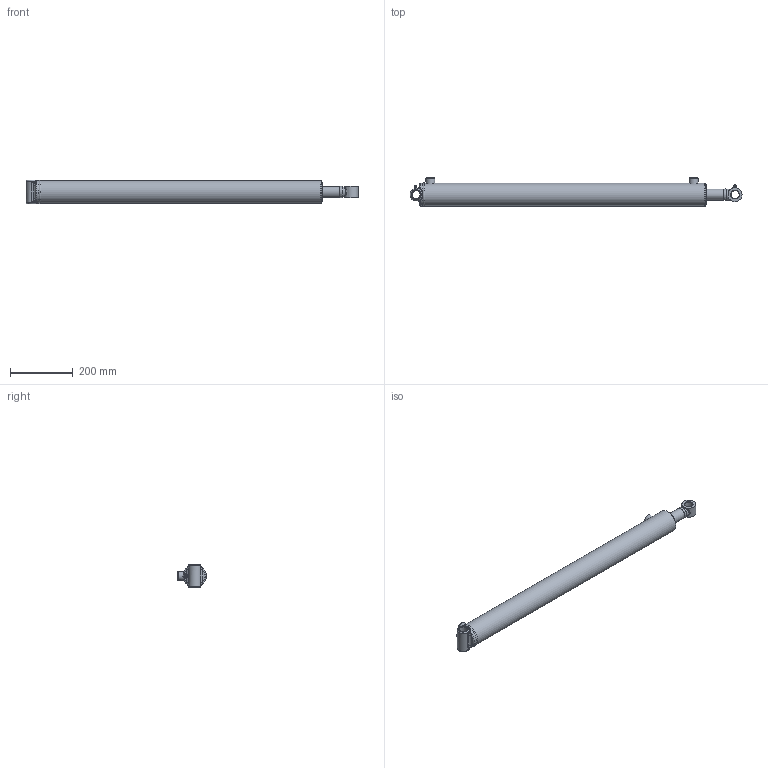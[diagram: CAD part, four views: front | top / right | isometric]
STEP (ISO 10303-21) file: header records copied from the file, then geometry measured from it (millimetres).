
FILE_DESCRIPTION(/* description */ ('Ø2.50 X 32.00 DA'),/* implementation_level */ '2;1');
FILE_NAME(/* name */ 'result.stp',/* time_stamp */ '2024-07-12T20:45:16Z',/* author */ ('AJC'),/* organization */ ('PRINCE MANUFACTURING'),/* preprocessor_version */ 'ST-DEVELOPER v20',/* originating_system */ 'Autodesk Inventor 2024',/* authorisation */ '');
FILE_SCHEMA (('AUTOMOTIVE_DESIGN { 1 0 10303 214 3 1 1 }'));
Length unit declared in the file: inch
Products named in the file (21): PC2532013A00-400XYXA; 0613-XYSF000-35237; 0513-T-35237; 161300230; 200015602; 06Weld1_C360; 0713-P-075; 220000208; 0813-G-138; 230025103; 230025003; 240000018; 240061330; 240000330; 0207A-FAW0-38250XA; 0107A-FAW0-38250; 210400812; 02Weld_C360; 240037106; 250014137; 270010020
Assembly tree (22 placements, depth 3):
  PC2532013A00-400XYXA
    0613-XYSF000-35237
      0513-T-35237
      161300230
      200015602  x2
      06Weld1_C360
    0713-P-075
    220000208
    0813-G-138
    230025103
    230025003
    240000018
    240061330
    240000330
    0207A-FAW0-38250XA
      0107A-FAW0-38250
      210400812
      02Weld_C360
    240037106
    250014137
    270010020  x2
Bounding box: 1057.71 x 91.34 x 76.2 mm (x, y, z)
Volume: 2130803.5 mm3; surface area: 609098.2 mm2
Topology: 25 solids, 25 shells, 554 faces, 1338 edges, 857 vertices
Faces by surface type: bspline 155, plane 140, torus 86, cone 86, cylinder 83, sphere 4
Full cylindrical faces by diameter (mm): 2.143 x4, 3.175 x1, 5.359 x2, 6.35 x2, 9.525 x2, 12.649 x1, 12.7 x1, 12.725 x1, 17.323 x3, 18.999 x1, 19.126 x1, 21.615 x1, 25.781 x2, 28.575 x2, 34.925 x1, 35.001 x2, 35.56 x2, 36.957 x1, 40.64 x1, 41.3 x1, 44.45 x1, 46.101 x2, 47.625 x2, 50.8 x2, 54.077 x2, 54.813 x2, 59.931 x2, 60.071 x1, 60.096 x4, 62.886 x2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
Entity records: 32494 total; most frequent: CARTESIAN_POINT 20016, ORIENTED_EDGE 2458, DIRECTION 2131, EDGE_CURVE 1229, AXIS2_PLACEMENT_3D 894, VERTEX_POINT 796, EDGE_LOOP 589, FACE_OUTER_BOUND 510
